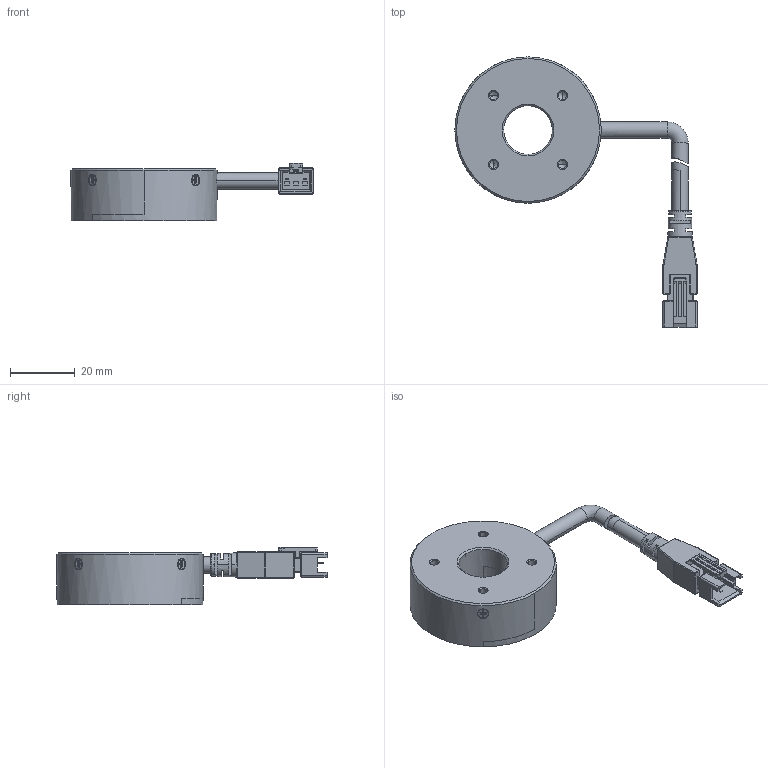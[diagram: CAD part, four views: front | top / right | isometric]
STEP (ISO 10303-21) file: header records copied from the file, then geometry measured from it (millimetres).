
FILE_DESCRIPTION((''),'2;1');
FILE_NAME('MV-LRDS-45-90-X_ASM','2023-09-15T11:56:13',('qiaoxuan5'),(''),'CREO PARAMETRIC BY PTC INC, 2020044','CREO PARAMETRIC BY PTC INC, 2020044','');
FILE_SCHEMA(('CONFIG_CONTROL_DESIGN','SHAPE_APPEARANCE_LAYERS_GROUPS'));
Length unit declared in the file: millimetre
Products named in the file (1): MV-LRDS-45-90-X_ASM
Bounding box: 74.55 x 83.16 x 17.7 mm (x, y, z)
Volume: 23688.3 mm3; surface area: 12445.8 mm2
Topology: 2 solids, 6 shells, 527 faces, 1361 edges, 848 vertices
Faces by surface type: plane 286, cylinder 155, cone 58, torus 10, sphere 8, bspline 8, extrusion 2
Entity records: 18091 total; most frequent: CARTESIAN_POINT 4319, ORIENTED_EDGE 2674, DIRECTION 2665, EDGE_CURVE 1337, AXIS2_PLACEMENT_3D 912, VERTEX_POINT 848, VECTOR 841, LINE 839
